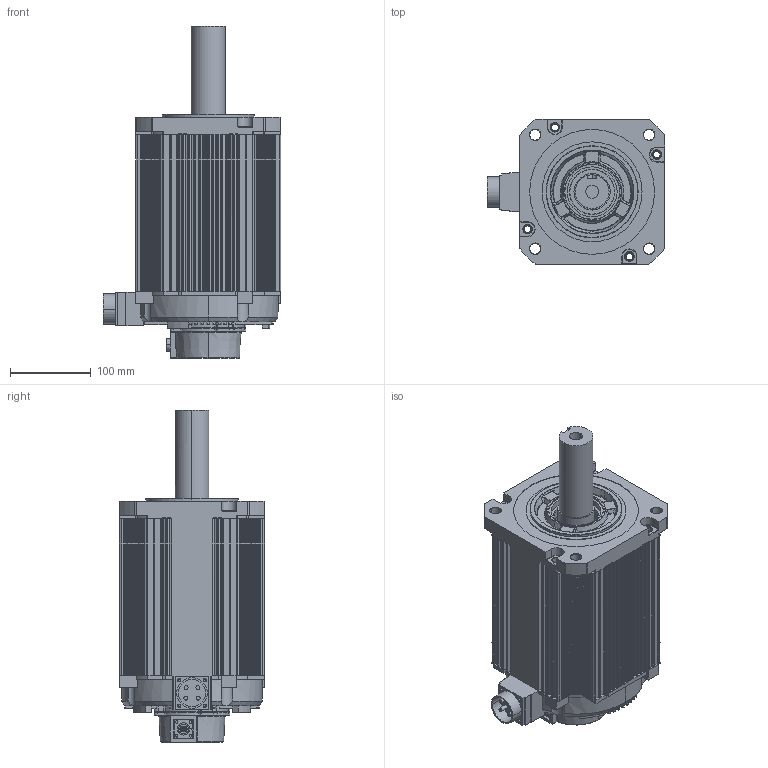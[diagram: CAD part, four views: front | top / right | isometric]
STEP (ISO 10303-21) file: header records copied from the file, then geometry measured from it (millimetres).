
FILE_DESCRIPTION(('CATIA V5 STEP Exchange'),'2;1');
FILE_NAME('F:\公司\180- 5对极\180A-48015\3D\180AST-48015HB\180AST-48015HB-ZZP.stp','2021-08-17T06:44:39+00:00',('none'),('none'),'CATIA Version 5 Release 20 GA (IN-10)','CATIA V5 STEP AP203','none');
FILE_SCHEMA(('CONFIG_CONTROL_DESIGN'));
Products named in the file (1): 180AST-48015HB-ZZP
Bounding box: 220 x 180 x 412 mm (x, y, z)
Volume: 3087825.6 mm3; surface area: 838023.9 mm2
Topology: 3 solids, 3 shells, 2623 faces, 6733 edges, 4199 vertices
Faces by surface type: cylinder 1130, plane 945, torus 279, bspline 162, sphere 74, cone 33
Entity records: 81564 total; most frequent: CARTESIAN_POINT 23243, ORIENTED_EDGE 13368, DIRECTION 9501, EDGE_CURVE 6684, AXIS2_PLACEMENT_3D 4712, VERTEX_POINT 4199, VECTOR 3095, LINE 3095
